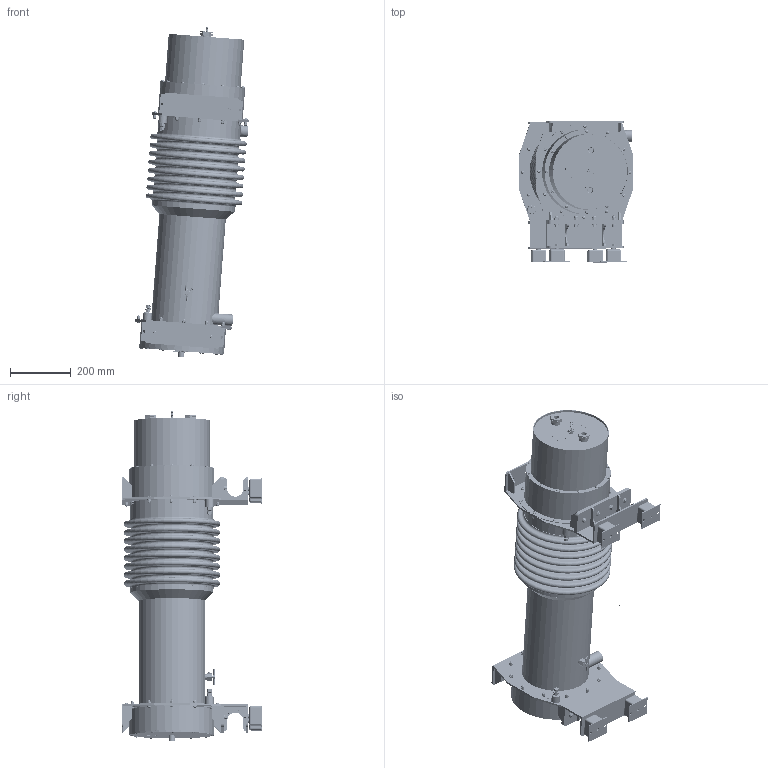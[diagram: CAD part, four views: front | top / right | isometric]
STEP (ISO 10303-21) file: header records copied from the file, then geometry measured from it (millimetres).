
FILE_DESCRIPTION (( 'STEP AP214' ), '1' );
FILE_NAME ('ﾐﾁﾌﾂ_ﾊ.STEP', '2025-08-06T16:23:27', ( '' ), ( '' ), 'SwSTEP 2.0', 'SolidWorks 2024', '' );
FILE_SCHEMA (( 'AUTOMOTIVE_DESIGN' ));
Length unit declared in the file: millimetre
Products named in the file (69): domed cap nut_din_DIN 1587 - M6 --NUC; КСО-Э-200-5-10 Сильфон- 0725; 20.5кольцо опорное верхнее брно; ЛСПТ.434365.005.90.1 Знак заземления; square nut grade c_din_Square nut DIN 557 M6 -N; 3.1СБ Фундамент блока резисторов; ЛСТП.000.10.2 Гофра 10.6.25; 20.2 Стойка БРНО; ЛСПТ.434365.005.2.4 .1Трубная доска 2-0725; ЛСПТ.434365.005.2.3 опорная пластина трубной доски-0625; 00-VBV-M-6N-BH (2); ЛСПТ.434365.005.2.2 Кница трубной доски 0625; ЛСПТ.434365.005.3.2 Отвод коллектора 2  0725; round nut slotted for hook spanner fine_din_DIN 1804 - M8x1 - N; 20.2.1 Стойка БРНО-2; plain washer small grade a_iso_Washer ISO 7092 - 8; hex screw gradec_iso_ISO 4018 - M8 x 16-WN; ЛСПТ.434365.005.20.13 Крышка БРНО-1; 678678678; ЛСПТ.434365.005.2.13 Пластина- сепаратор 0725; ЛСПТ.434365.005.20.1 Втулка диэлектрическая 0725; д33; ЛСПТ.434365.005.2.13.1  Пластина проходная-0725; plain washer normal grade a_iso_Washer ISO 7089 - 8; АКСС40; РБМВ_К; ЛСПТ.434365.005.3.1 Отвод коллектора 1 0725; д32; ЛСПТ.434365.005.40.8 Шайба упорная 0725; 20.6.1 Опорная втулка стержня заземления; 20.7Стойка крышки брно; д34; ЛСПТ.434365.005.40.12 Шина; ЛСПТ.10.2СБ Панель впускная; термоэлнмент 0725; 20.1 опорное кольцо БРНО; ЛСПТ.20.3СБ РСМК1- 0725; torque nut 03_iso_ISO 7042-M8-N; hex flange bolt small_iso_ISO 4162 - M8 x 25 x 25-N; ЛСПТ.434365.005.20.6 Трубка-изолятор стержня заземления 0725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
Assembly tree (305 placements, depth 4):
  РБМВ_К
    Центровочный кубик
    ЛСПТ.20.3СБ РСМК1- 0725
      ЛСПТ.434365.005.2.1.2 Стойка трубной доски 2-0625
      ЛСПТ.434365.005.2.2 Кница трубной доски 0625  x4
      ЛСПТ.10.2СБ Панель впускная
        ЛСПТ.434365.005.2.1.2 Стойка трубной доски 2-0625
        ЛСПТ.434365.005.2.3 опорная пластина трубной доски-0625  x2
        ЛСПТ.434365.005.2.2 Кница трубной доски 0625  x4
      ЛСПТ.434365.005.2.3 опорная пластина трубной доски-0625  x2
      3.1СБ Фундамент блока резисторов  x2
      термодатчикРТ100
      АКСС40  x4
      ЛСПТ.434365.005.40.4 Стержень шины заземления 0725
      ЛСПТ.434365.005.20.6 Трубка-изолятор стержня заземления 0725
      шина с наконечником  x2
        контакт шины1.1-сент_12
        ЛСПТ.434365.005.40.12 Шина
        torque nut 03_iso_ISO 7042-M8-N
        plain washer small grade a_iso_Washer ISO 7092 - 8
        hex screw gradec_iso_ISO 4018 - M8 x 16-WN
      ЛСПТ.434365.005.20.1 Втулка диэлектрическая 0725
      ЛСПТ.20.45СБ БРНО-2
        20.1 опорное кольцо БРНО
        20.2.1 Стойка БРНО-2
        20.5кольцо опорное верхнее брно
      20.44БРНО-1
        20.1 опорное кольцо БРНО
        20.2 Стойка БРНО
        20.5кольцо опорное верхнее брно
      20.60  Корпус оголовья БРНО
        20.5кольцо опорное верхнее брно
        20.7Стойка крышки брно
        20.8 опора крышки
        square nut grade c_din_Square nut DIN 557 M6 -N  x6
      ЛСПТ.434365.005.40.8 Шайба упорная 0725  x2
      round nut slotted for hook spanner fine_din_DIN 1804 - M8x1 - N
      втулка 16-22  x2
        д32
        д33
        678678678
        д34
      hex flange bolt small_iso_ISO 4162 - M8 x 40 x 22-N  x4
      00-VBV-M-6N-BH (2)
      001.300Бонка заземления 0625  x2
        001.115ГКА
        plain washer small grade a_iso_Washer ISO 7092 - 10
        ЛСПТ.434365.005.40.2 Шпилька заземления
        ЛСПТ.434365.005.40.5 Втулка резьбовая
      знак опасности  x2
      ЛСПТ.434365.005.90.1 Знак заземления  x3
      20.6.1 Опорная втулка стержня заземления
      20.6.2 Кольцо установочное 0725
      socket button head screw_iso_ISO 7380 - M6 x 16 - 16N  x12
      curved spring lock washer_din_Spring washer DIN 128 - A6  x61
      domed cap nut_din_DIN 1587 - M6 --NUC  x24
      socket button head screw_iso_ISO 7380 - M6 x 20 - 20N  x36
      hex flange bolt small_iso_ISO 4162 - M8 x 25 x 25-N  x8
      plain washer normal grade a_iso_Washer ISO 7089 - 8  x16
      domed cap nut fine_din_DIN 1587 - M8x1.0 --NNU  x8
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Bounding box: 374.36 x 464.19 x 1087.26 mm (x, y, z)
Volume: 11152963.6 mm3; surface area: 7741084.3 mm2
Topology: 312 solids, 313 shells, 7087 faces, 17019 edges, 10597 vertices
Faces by surface type: cylinder 3137, plane 2194, cone 1047, torus 422, sphere 176, bspline 111
Entity records: 80451 total; most frequent: CARTESIAN_POINT 33336, DIRECTION 9798, ORIENTED_EDGE 8946, EDGE_CURVE 4473, AXIS2_PLACEMENT_3D 4043, VERTEX_POINT 2888, EDGE_LOOP 2369, CIRCLE 1967
